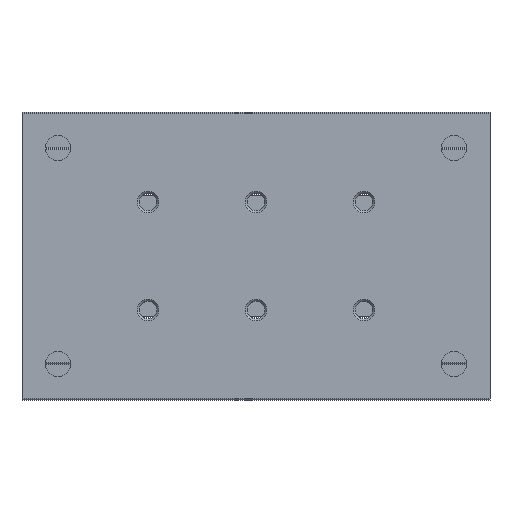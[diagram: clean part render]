
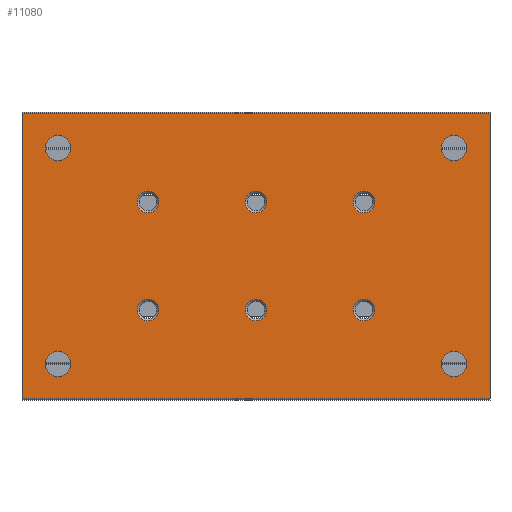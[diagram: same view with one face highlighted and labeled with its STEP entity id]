
A CAD part, front view. The second image highlights one B-rep face of the part: STEP entity #11080.
In plain terms, the highlighted planar face has unit normal (0, -1, 0).
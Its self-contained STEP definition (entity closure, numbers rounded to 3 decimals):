
#473=LINE('',#16888,#1491);
#495=LINE('',#16932,#1513);
#497=LINE('',#16956,#1515);
#498=LINE('',#16958,#1516);
#1491=VECTOR('',#13158,1000.);
#1513=VECTOR('',#13186,1000.);
#1515=VECTOR('',#13210,1000.);
#1516=VECTOR('',#13211,1000.);
#2574=ORIENTED_EDGE('',*,*,#5945,.F.);
#2575=ORIENTED_EDGE('',*,*,#5946,.F.);
#2576=ORIENTED_EDGE('',*,*,#5947,.F.);
#2577=ORIENTED_EDGE('',*,*,#5948,.F.);
#2578=ORIENTED_EDGE('',*,*,#5949,.F.);
#2579=ORIENTED_EDGE('',*,*,#5950,.F.);
#2580=ORIENTED_EDGE('',*,*,#5951,.T.);
#2581=ORIENTED_EDGE('',*,*,#5952,.F.);
#2582=ORIENTED_EDGE('',*,*,#5953,.F.);
#2583=ORIENTED_EDGE('',*,*,#5954,.F.);
#2584=ORIENTED_EDGE('',*,*,#5921,.T.);
#2585=ORIENTED_EDGE('',*,*,#5955,.F.);
#2586=ORIENTED_EDGE('',*,*,#5956,.F.);
#2587=ORIENTED_EDGE('',*,*,#5943,.T.);
#5921=EDGE_CURVE('',#7603,#7602,#473,.T.);
#5943=EDGE_CURVE('',#7622,#7603,#495,.T.);
#5945=EDGE_CURVE('',#7623,#7623,#8652,.T.);
#5946=EDGE_CURVE('',#7624,#7624,#8653,.T.);
#5947=EDGE_CURVE('',#7625,#7625,#8654,.T.);
#5948=EDGE_CURVE('',#7626,#7626,#8655,.T.);
#5949=EDGE_CURVE('',#7627,#7627,#8656,.T.);
#5950=EDGE_CURVE('',#7628,#7628,#8657,.T.);
#5951=EDGE_CURVE('',#7629,#7629,#8658,.T.);
#5952=EDGE_CURVE('',#7630,#7630,#8659,.T.);
#5953=EDGE_CURVE('',#7631,#7631,#8660,.T.);
#5954=EDGE_CURVE('',#7632,#7632,#8661,.T.);
#5955=EDGE_CURVE('',#7633,#7602,#497,.T.);
#5956=EDGE_CURVE('',#7622,#7633,#498,.T.);
#7602=VERTEX_POINT('',#16887);
#7603=VERTEX_POINT('',#16889);
#7622=VERTEX_POINT('',#16933);
#7623=VERTEX_POINT('',#16937);
#7624=VERTEX_POINT('',#16939);
#7625=VERTEX_POINT('',#16941);
#7626=VERTEX_POINT('',#16943);
#7627=VERTEX_POINT('',#16945);
#7628=VERTEX_POINT('',#16947);
#7629=VERTEX_POINT('',#16949);
#7630=VERTEX_POINT('',#16951);
#7631=VERTEX_POINT('',#16953);
#7632=VERTEX_POINT('',#16955);
#7633=VERTEX_POINT('',#16957);
#8652=CIRCLE('',#11742,1.5);
#8653=CIRCLE('',#11743,1.5);
#8654=CIRCLE('',#11744,1.5);
#8655=CIRCLE('',#11745,1.5);
#8656=CIRCLE('',#11746,1.5);
#8657=CIRCLE('',#11747,1.5);
#8658=CIRCLE('',#11748,1.75);
#8659=CIRCLE('',#11749,1.75);
#8660=CIRCLE('',#11750,1.75);
#8661=CIRCLE('',#11751,1.75);
#9333=EDGE_LOOP('',(#2574));
#9334=EDGE_LOOP('',(#2575));
#9335=EDGE_LOOP('',(#2576));
#9336=EDGE_LOOP('',(#2577));
#9337=EDGE_LOOP('',(#2578));
#9338=EDGE_LOOP('',(#2579));
#9339=EDGE_LOOP('',(#2580));
#9340=EDGE_LOOP('',(#2581));
#9341=EDGE_LOOP('',(#2582));
#9342=EDGE_LOOP('',(#2583));
#9343=EDGE_LOOP('',(#2584,#2585,#2586,#2587));
#10061=FACE_BOUND('',#9333,.T.);
#10062=FACE_BOUND('',#9334,.T.);
#10063=FACE_BOUND('',#9335,.T.);
#10064=FACE_BOUND('',#9336,.T.);
#10065=FACE_BOUND('',#9337,.T.);
#10066=FACE_BOUND('',#9338,.T.);
#10067=FACE_BOUND('',#9339,.T.);
#10068=FACE_BOUND('',#9340,.T.);
#10069=FACE_BOUND('',#9341,.T.);
#10070=FACE_BOUND('',#9342,.T.);
#10071=FACE_BOUND('',#9343,.T.);
#10789=PLANE('',#11741);
#11080=ADVANCED_FACE('',(#10061,#10062,#10063,#10064,#10065,#10066,#10067,
#10068,#10069,#10070,#10071),#10789,.F.);
#11741=AXIS2_PLACEMENT_3D('',#16935,#13188,#13189);
#11742=AXIS2_PLACEMENT_3D('',#16936,#13190,#13191);
#11743=AXIS2_PLACEMENT_3D('',#16938,#13192,#13193);
#11744=AXIS2_PLACEMENT_3D('',#16940,#13194,#13195);
#11745=AXIS2_PLACEMENT_3D('',#16942,#13196,#13197);
#11746=AXIS2_PLACEMENT_3D('',#16944,#13198,#13199);
#11747=AXIS2_PLACEMENT_3D('',#16946,#13200,#13201);
#11748=AXIS2_PLACEMENT_3D('',#16948,#13202,#13203);
#11749=AXIS2_PLACEMENT_3D('',#16950,#13204,#13205);
#11750=AXIS2_PLACEMENT_3D('',#16952,#13206,#13207);
#11751=AXIS2_PLACEMENT_3D('',#16954,#13208,#13209);
#13158=DIRECTION('',(0.,0.,-1.));
#13186=DIRECTION('',(-1.,0.,0.));
#13188=DIRECTION('',(0.,1.,0.));
#13189=DIRECTION('',(0.,0.,1.));
#13190=DIRECTION('',(0.,-1.,0.));
#13191=DIRECTION('',(0.,0.,-1.));
#13192=DIRECTION('',(0.,-1.,0.));
#13193=DIRECTION('',(0.,0.,-1.));
#13194=DIRECTION('',(0.,-1.,0.));
#13195=DIRECTION('',(0.,0.,-1.));
#13196=DIRECTION('',(0.,-1.,0.));
#13197=DIRECTION('',(0.,0.,-1.));
#13198=DIRECTION('',(0.,-1.,0.));
#13199=DIRECTION('',(0.,0.,-1.));
#13200=DIRECTION('',(0.,-1.,0.));
#13201=DIRECTION('',(0.,0.,-1.));
#13202=DIRECTION('',(0.,1.,0.));
#13203=DIRECTION('',(0.,0.,1.));
#13204=DIRECTION('',(0.,-1.,0.));
#13205=DIRECTION('',(0.,0.,-1.));
#13206=DIRECTION('',(0.,-1.,0.));
#13207=DIRECTION('',(0.,0.,-1.));
#13208=DIRECTION('',(0.,-1.,0.));
#13209=DIRECTION('',(0.,0.,-1.));
#13210=DIRECTION('',(-1.,0.,0.));
#13211=DIRECTION('',(0.,0.,-1.));
#16887=CARTESIAN_POINT('',(0.,0.,-19.85));
#16888=CARTESIAN_POINT('',(0.,0.,19.85));
#16889=CARTESIAN_POINT('',(0.,0.,19.85));
#16932=CARTESIAN_POINT('',(65.,0.,19.85));
#16933=CARTESIAN_POINT('',(65.,0.,19.85));
#16935=CARTESIAN_POINT('',(65.,0.,19.85));
#16936=CARTESIAN_POINT('',(47.5,0.,-7.5));
#16937=CARTESIAN_POINT('',(47.5,0.,-9.));
#16938=CARTESIAN_POINT('',(47.5,0.,7.5));
#16939=CARTESIAN_POINT('',(47.5,0.,6.));
#16940=CARTESIAN_POINT('',(17.5,0.,-7.5));
#16941=CARTESIAN_POINT('',(17.5,0.,-9.));
#16942=CARTESIAN_POINT('',(17.5,0.,7.5));
#16943=CARTESIAN_POINT('',(17.5,0.,6.));
#16944=CARTESIAN_POINT('',(32.5,0.,-7.5));
#16945=CARTESIAN_POINT('',(32.5,0.,-9.));
#16946=CARTESIAN_POINT('',(32.5,0.,7.5));
#16947=CARTESIAN_POINT('',(32.5,0.,6.));
#16948=CARTESIAN_POINT('',(60.,0.,15.));
#16949=CARTESIAN_POINT('',(60.,0.,16.75));
#16950=CARTESIAN_POINT('',(60.,0.,-15.));
#16951=CARTESIAN_POINT('',(60.,0.,-16.75));
#16952=CARTESIAN_POINT('',(5.,0.,-15.));
#16953=CARTESIAN_POINT('',(5.,0.,-16.75));
#16954=CARTESIAN_POINT('',(5.,0.,15.));
#16955=CARTESIAN_POINT('',(5.,0.,13.25));
#16956=CARTESIAN_POINT('',(65.,0.,-19.85));
#16957=CARTESIAN_POINT('',(65.,0.,-19.85));
#16958=CARTESIAN_POINT('',(65.,0.,19.85));
